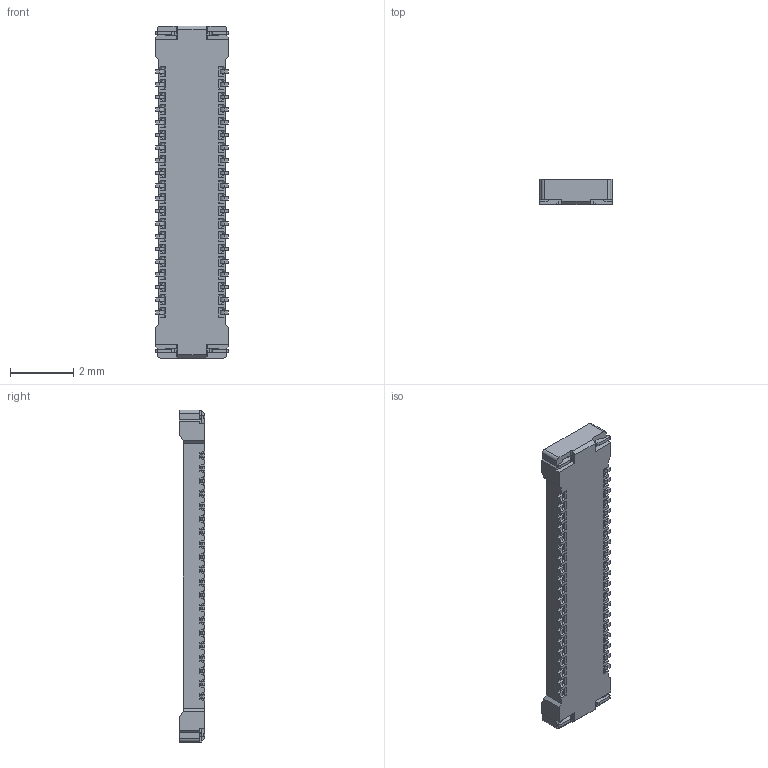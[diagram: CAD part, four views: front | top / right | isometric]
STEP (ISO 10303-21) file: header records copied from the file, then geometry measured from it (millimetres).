
FILE_DESCRIPTION(('CoCreate Modeling STEP Export'),'2;1');
FILE_NAME('BM20B(0.8)-40DS-0.4V.stp','2012-10-17T17:06:25',(''),(''),'CoCreate Modeling STEP processor for AP214 (Solid Model)','CoCreate Modeling 17.0 01-Apr-2010 (C) Parametric Technology GmbH','');
FILE_SCHEMA(('AUTOMOTIVE_DESIGN { 1 0 10303 214 1 1 1 1 }'));
Products named in the file (1): BM20B(0.8)-40DS-0.4V
Bounding box: 2.3 x 0.8 x 10.48 mm (x, y, z)
Volume: 12 mm3; surface area: 109.4 mm2
Topology: 1 solids, 1 shells, 3212 faces, 9463 edges, 6170 vertices
Faces by surface type: plane 2209, cylinder 843, torus 80, bspline 80
Entity records: 111768 total; most frequent: CARTESIAN_POINT 26406, ORIENTED_EDGE 18926, DIRECTION 16560, EDGE_CURVE 9463, VECTOR 6968, LINE 6968, VERTEX_POINT 6170, AXIS2_PLACEMENT_3D 4796
